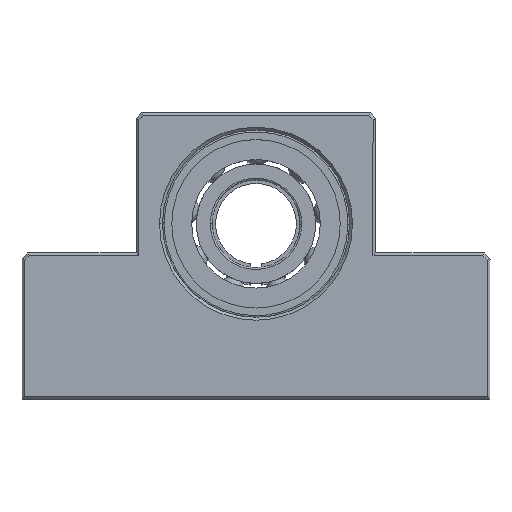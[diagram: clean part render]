
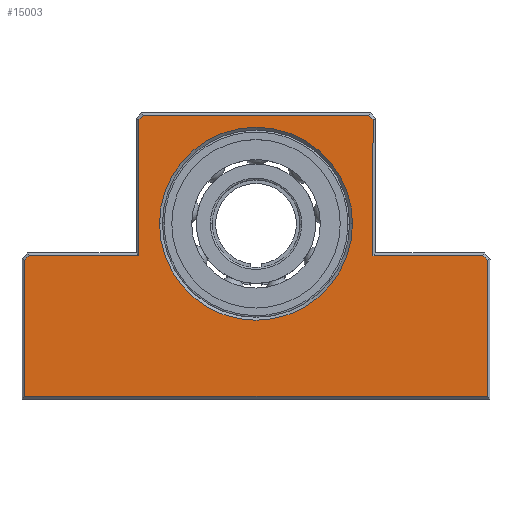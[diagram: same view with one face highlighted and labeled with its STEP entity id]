
A CAD part, top view. The second image highlights one B-rep face of the part: STEP entity #15003.
In plain terms, the highlighted planar face has unit normal (0, 0, 1).
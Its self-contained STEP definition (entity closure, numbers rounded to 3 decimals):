
#134 = LINE ( 'NONE', #10996, #14675 ) ;
#291 = DIRECTION ( 'NONE',  ( 0., 0., -1. ) ) ;
#321 = ORIENTED_EDGE ( 'NONE', *, *, #10091, .T. ) ;
#755 = LINE ( 'NONE', #12973, #12686 ) ;
#775 = ORIENTED_EDGE ( 'NONE', *, *, #4190, .F. ) ;
#887 = CARTESIAN_POINT ( 'NONE',  ( -11.043, 18.894, 10. ) ) ;
#915 = DIRECTION ( 'NONE',  ( 0.707, -0.707, 0. ) ) ;
#975 = VECTOR ( 'NONE', #1012, 1000. ) ;
#1012 = DIRECTION ( 'NONE',  ( 1., 0., 0. ) ) ;
#1124 = ORIENTED_EDGE ( 'NONE', *, *, #10880, .F. ) ;
#1226 = LINE ( 'NONE', #9195, #10773 ) ;
#1453 = DIRECTION ( 'NONE',  ( 0., 1., 0. ) ) ;
#1486 = CARTESIAN_POINT ( 'NONE',  ( -11.75, -5.106, 10. ) ) ;
#1507 = AXIS2_PLACEMENT_3D ( 'NONE', #1913, #291, #12871 ) ;
#1813 = VECTOR ( 'NONE', #16722, 1000. ) ;
#1840 = EDGE_CURVE ( 'NONE', #3930, #5833, #11290, .T. ) ;
#1913 = CARTESIAN_POINT ( 'NONE',  ( 8.25, 0.394, 10. ) ) ;
#2218 = EDGE_CURVE ( 'NONE', #14647, #16783, #9308, .T. ) ;
#2285 = AXIS2_PLACEMENT_3D ( 'NONE', #15599, #14062, #7204 ) ;
#2332 = CARTESIAN_POINT ( 'NONE',  ( -31.25, -5.813, 10. ) ) ;
#2497 = EDGE_CURVE ( 'NONE', #6933, #15053, #8050, .T. ) ;
#2526 = CARTESIAN_POINT ( 'NONE',  ( -11.75, 18.187, 10. ) ) ;
#2625 = EDGE_CURVE ( 'NONE', #6840, #3449, #1226, .T. ) ;
#2733 = LINE ( 'NONE', #15224, #7428 ) ;
#2943 = DIRECTION ( 'NONE',  ( -0.707, 0.707, 0. ) ) ;
#2978 = EDGE_LOOP ( 'NONE', ( #321, #15325 ) ) ;
#3298 = EDGE_CURVE ( 'NONE', #10216, #6933, #6646, .T. ) ;
#3369 = EDGE_LOOP ( 'NONE', ( #17851, #9118, #775, #14841, #1124, #17689, #6943, #8516, #12927, #7183, #4146, #7818 ) ) ;
#3449 = VERTEX_POINT ( 'NONE', #2526 ) ;
#3461 = VERTEX_POINT ( 'NONE', #2332 ) ;
#3482 = CARTESIAN_POINT ( 'NONE',  ( 47.75, -29.75, 10. ) ) ;
#3536 = DIRECTION ( 'NONE',  ( 1., 0., 0. ) ) ;
#3705 = VERTEX_POINT ( 'NONE', #7367 ) ;
#3709 = DIRECTION ( 'NONE',  ( 0., 0., -1. ) ) ;
#3930 = VERTEX_POINT ( 'NONE', #17007 ) ;
#4146 = ORIENTED_EDGE ( 'NONE', *, *, #3298, .F. ) ;
#4190 = EDGE_CURVE ( 'NONE', #6876, #10652, #15255, .T. ) ;
#4387 = FACE_OUTER_BOUND ( 'NONE', #3369, .T. ) ;
#4456 = VECTOR ( 'NONE', #14749, 1000. ) ;
#4496 = CARTESIAN_POINT ( 'NONE',  ( -30.864, -5.106, 10. ) ) ;
#4845 = VECTOR ( 'NONE', #7684, 1000. ) ;
#5833 = VERTEX_POINT ( 'NONE', #12026 ) ;
#6646 = LINE ( 'NONE', #9079, #8205 ) ;
#6707 = CARTESIAN_POINT ( 'NONE',  ( 28.25, 18.187, 10. ) ) ;
#6825 = AXIS2_PLACEMENT_3D ( 'NONE', #16120, #3709, #14757 ) ;
#6840 = VERTEX_POINT ( 'NONE', #887 ) ;
#6876 = VERTEX_POINT ( 'NONE', #9681 ) ;
#6933 = VERTEX_POINT ( 'NONE', #6707 ) ;
#6943 = ORIENTED_EDGE ( 'NONE', *, *, #7839, .F. ) ;
#7183 = ORIENTED_EDGE ( 'NONE', *, *, #2497, .F. ) ;
#7204 = DIRECTION ( 'NONE',  ( 1., 0., 0. ) ) ;
#7367 = CARTESIAN_POINT ( 'NONE',  ( 47.75, -5.813, 10. ) ) ;
#7428 = VECTOR ( 'NONE', #1453, 1000. ) ;
#7684 = DIRECTION ( 'NONE',  ( 0., -1., 0. ) ) ;
#7818 = ORIENTED_EDGE ( 'NONE', *, *, #17168, .F. ) ;
#7839 = EDGE_CURVE ( 'NONE', #3705, #3930, #16182, .T. ) ;
#8050 = LINE ( 'NONE', #12360, #12787 ) ;
#8068 = CARTESIAN_POINT ( 'NONE',  ( -8.25, 0.394, 10. ) ) ;
#8205 = VECTOR ( 'NONE', #915, 1000. ) ;
#8516 = ORIENTED_EDGE ( 'NONE', *, *, #13516, .T. ) ;
#9079 = CARTESIAN_POINT ( 'NONE',  ( 27.543, 18.894, 10. ) ) ;
#9118 = ORIENTED_EDGE ( 'NONE', *, *, #16498, .F. ) ;
#9195 = CARTESIAN_POINT ( 'NONE',  ( -11.043, 18.894, 10. ) ) ;
#9278 = VECTOR ( 'NONE', #12531, 1000. ) ;
#9308 = CIRCLE ( 'NONE', #1507, 16.5 ) ;
#9681 = CARTESIAN_POINT ( 'NONE',  ( -30.543, -5.106, 10. ) ) ;
#9918 = EDGE_CURVE ( 'NONE', #15053, #13868, #17676, .T. ) ;
#10077 = FACE_BOUND ( 'NONE', #2978, .T. ) ;
#10091 = EDGE_CURVE ( 'NONE', #16783, #14647, #15195, .T. ) ;
#10216 = VERTEX_POINT ( 'NONE', #15560 ) ;
#10404 = CARTESIAN_POINT ( 'NONE',  ( -31.25, -29.75, 10. ) ) ;
#10527 = LINE ( 'NONE', #10612, #17271 ) ;
#10612 = CARTESIAN_POINT ( 'NONE',  ( -11.484, 18.894, 10. ) ) ;
#10652 = VERTEX_POINT ( 'NONE', #1486 ) ;
#10773 = VECTOR ( 'NONE', #13442, 1000. ) ;
#10880 = EDGE_CURVE ( 'NONE', #5833, #3461, #14485, .T. ) ;
#10925 = DIRECTION ( 'NONE',  ( 0., -1., 0. ) ) ;
#10996 = CARTESIAN_POINT ( 'NONE',  ( 47.75, -5.813, 10. ) ) ;
#11290 = LINE ( 'NONE', #13723, #1813 ) ;
#12026 = CARTESIAN_POINT ( 'NONE',  ( -31.25, -29.106, 10. ) ) ;
#12360 = CARTESIAN_POINT ( 'NONE',  ( 28.25, -5.247, 10. ) ) ;
#12531 = DIRECTION ( 'NONE',  ( 1., 0., 0. ) ) ;
#12686 = VECTOR ( 'NONE', #16065, 1000. ) ;
#12787 = VECTOR ( 'NONE', #10925, 1000. ) ;
#12871 = DIRECTION ( 'NONE',  ( 1., 0., 0. ) ) ;
#12927 = ORIENTED_EDGE ( 'NONE', *, *, #9918, .F. ) ;
#12973 = CARTESIAN_POINT ( 'NONE',  ( -30.543, -5.106, 10. ) ) ;
#13442 = DIRECTION ( 'NONE',  ( -0.707, -0.707, 0. ) ) ;
#13516 = EDGE_CURVE ( 'NONE', #3705, #13868, #134, .T. ) ;
#13723 = CARTESIAN_POINT ( 'NONE',  ( -32.23, -29.106, 10. ) ) ;
#13868 = VERTEX_POINT ( 'NONE', #15012 ) ;
#14062 = DIRECTION ( 'NONE',  ( 0., 0., 1. ) ) ;
#14485 = LINE ( 'NONE', #10404, #4456 ) ;
#14647 = VERTEX_POINT ( 'NONE', #8068 ) ;
#14675 = VECTOR ( 'NONE', #2943, 1000. ) ;
#14749 = DIRECTION ( 'NONE',  ( 0., 1., 0. ) ) ;
#14757 = DIRECTION ( 'NONE',  ( 1., 0., 0. ) ) ;
#14841 = ORIENTED_EDGE ( 'NONE', *, *, #14904, .T. ) ;
#14904 = EDGE_CURVE ( 'NONE', #6876, #3461, #755, .T. ) ;
#15003 = ADVANCED_FACE ( 'NONE', ( #10077, #4387 ), #15247, .T. ) ;
#15012 = CARTESIAN_POINT ( 'NONE',  ( 47.043, -5.106, 10. ) ) ;
#15053 = VERTEX_POINT ( 'NONE', #16977 ) ;
#15195 = CIRCLE ( 'NONE', #6825, 16.5 ) ;
#15224 = CARTESIAN_POINT ( 'NONE',  ( -11.75, -5.247, 10. ) ) ;
#15247 = PLANE ( 'NONE',  #2285 ) ;
#15255 = LINE ( 'NONE', #4496, #9278 ) ;
#15325 = ORIENTED_EDGE ( 'NONE', *, *, #2218, .T. ) ;
#15560 = CARTESIAN_POINT ( 'NONE',  ( 27.543, 18.894, 10. ) ) ;
#15599 = CARTESIAN_POINT ( 'NONE',  ( -31.25, -29.106, 10. ) ) ;
#16065 = DIRECTION ( 'NONE',  ( -0.707, -0.707, 0. ) ) ;
#16120 = CARTESIAN_POINT ( 'NONE',  ( 8.25, 0.394, 10. ) ) ;
#16182 = LINE ( 'NONE', #3482, #4845 ) ;
#16498 = EDGE_CURVE ( 'NONE', #10652, #3449, #2733, .T. ) ;
#16722 = DIRECTION ( 'NONE',  ( -1., 0., 0. ) ) ;
#16783 = VERTEX_POINT ( 'NONE', #17918 ) ;
#16977 = CARTESIAN_POINT ( 'NONE',  ( 28.25, -5.106, 10. ) ) ;
#17007 = CARTESIAN_POINT ( 'NONE',  ( 47.75, -29.106, 10. ) ) ;
#17168 = EDGE_CURVE ( 'NONE', #6840, #10216, #10527, .T. ) ;
#17271 = VECTOR ( 'NONE', #3536, 1000. ) ;
#17593 = CARTESIAN_POINT ( 'NONE',  ( 28.136, -5.106, 10. ) ) ;
#17676 = LINE ( 'NONE', #17593, #975 ) ;
#17689 = ORIENTED_EDGE ( 'NONE', *, *, #1840, .F. ) ;
#17851 = ORIENTED_EDGE ( 'NONE', *, *, #2625, .T. ) ;
#17918 = CARTESIAN_POINT ( 'NONE',  ( 24.75, 0.394, 10. ) ) ;
